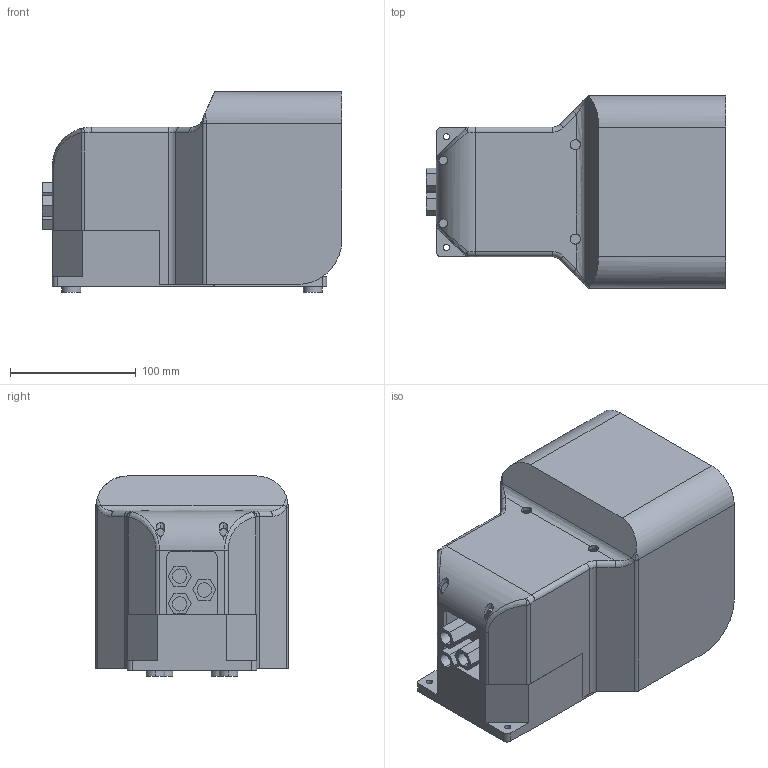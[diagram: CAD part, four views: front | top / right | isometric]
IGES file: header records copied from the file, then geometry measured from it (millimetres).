
Global section: file name: No Iges File Name specified; native system: AutoDesk Inventor R11.0; preprocessor: AutoDesk Inventor Iges Exporter R11.0; author: No Author specified; organization: No Organization specified; date: 20061219.113528; units: millimetre
Bounding box: 238 x 153 x 159 mm (x, y, z)
Volume: 1069876.1 mm3; surface area: 302419.6 mm2
Topology: 2 solids, 2 shells, 223 faces, 596 edges, 384 vertices
Faces by surface type: plane 115, cylinder 40, bspline 32, revolution 30, torus 4, sphere 2
